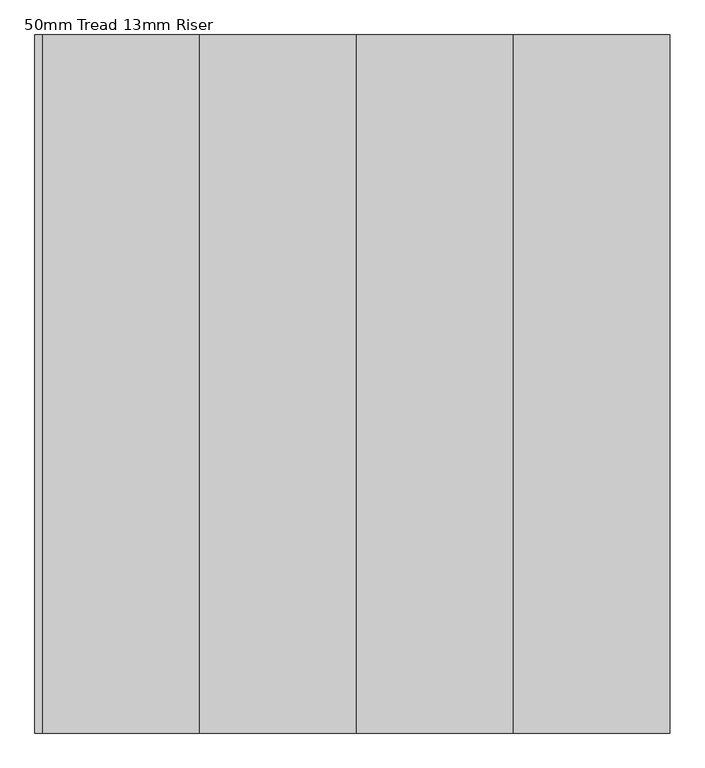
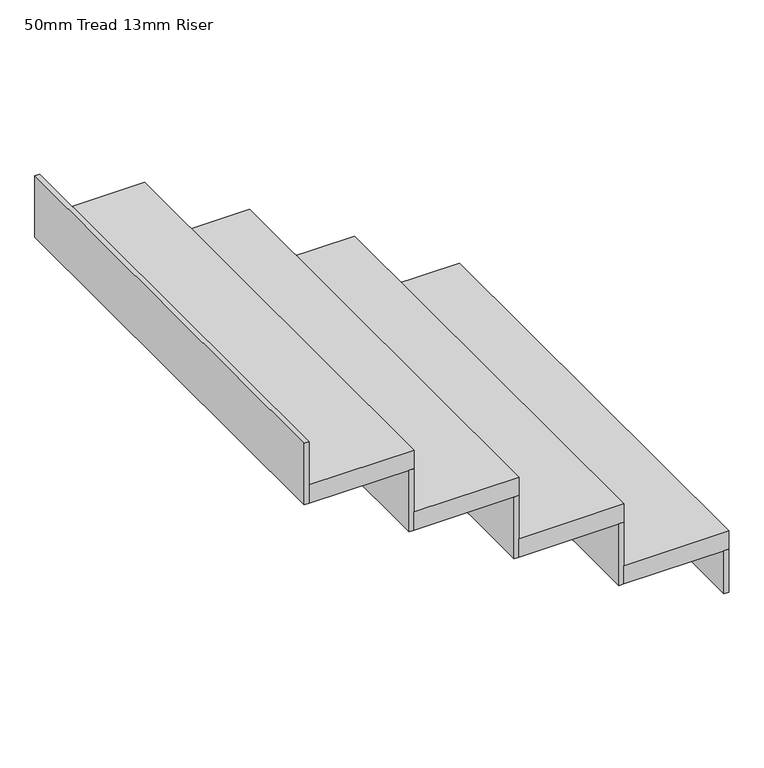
"""IFC4 building model written with IfcOpenShell, lengths in millimetres: stair flight geometry, 50mm Tread 13mm Riser."""

from ifc_helpers import new_model, si_unit, frame, origin, place, context, project, spatial, polyline, outline, extrude, source, transform, mapped, element, save


def stair_flight_50mm_tread_13mm_riser_676722f2(model_context):
    return source(origin(), model_context, "Body", "SweptSolid", [
        extrude(outline(polyline([(-73481.0913038, 13342.1710387), (-73468.5913038, 13342.1710387), (-73468.5913038, 12142.1710387), (-73481.0913038, 12142.1710387), (-73481.0913038, 13342.1710387)])), frame((0.0, 0.0, 42810.0), z_axis=(0.0, 0.0, 1.0), x_axis=(1.0, 0.0, 0.0)), (0.0, 0.0, 1.0), 117.5),
        extrude(outline(polyline([(-73738.5913038, 12142.1710387), (-73738.5913038, 13342.1710387), (-73468.5913038, 13342.1710387), (-73468.5913038, 12142.1710387), (-73738.5913038, 12142.1710387)])), frame((0.0, 0.0, 42927.5), z_axis=(0.0, 0.0, 1.0), x_axis=(1.0, 0.0, 0.0)), (0.0, 0.0, 1.0), 50.0),
        extrude(outline(polyline([(-73751.0913038, 13342.1710387), (-73738.5913038, 13342.1710387), (-73738.5913038, 12142.1710387), (-73751.0913038, 12142.1710387), (-73751.0913038, 13342.1710387)])), frame((0.0, 0.0, 42927.5), z_axis=(0.0, 0.0, 1.0), x_axis=(1.0, 0.0, 0.0)), (0.0, 0.0, 1.0), 167.5),
        extrude(outline(polyline([(-74008.5913038, 12142.1710387), (-74008.5913038, 13342.1710387), (-73738.5913038, 13342.1710387), (-73738.5913038, 12142.1710387), (-74008.5913038, 12142.1710387)])), frame((0.0, 0.0, 43095.0), z_axis=(0.0, 0.0, 1.0), x_axis=(1.0, 0.0, 0.0)), (0.0, 0.0, 1.0), 50.0),
        extrude(outline(polyline([(-74021.0913038, 13342.1710387), (-74008.5913038, 13342.1710387), (-74008.5913038, 12142.1710387), (-74021.0913038, 12142.1710387), (-74021.0913038, 13342.1710387)])), frame((0.0, 0.0, 43095.0), z_axis=(0.0, 0.0, 1.0), x_axis=(1.0, 0.0, 0.0)), (0.0, 0.0, 1.0), 167.5),
        extrude(outline(polyline([(-74278.5913038, 12142.1710387), (-74278.5913038, 13342.1710387), (-74008.5913038, 13342.1710387), (-74008.5913038, 12142.1710387), (-74278.5913038, 12142.1710387)])), frame((0.0, 0.0, 43262.5), z_axis=(0.0, 0.0, 1.0), x_axis=(1.0, 0.0, 0.0)), (0.0, 0.0, 1.0), 50.0),
        extrude(outline(polyline([(-74291.0913038, 13342.1710387), (-74278.5913038, 13342.1710387), (-74278.5913038, 12142.1710387), (-74291.0913038, 12142.1710387), (-74291.0913038, 13342.1710387)])), frame((0.0, 0.0, 43262.5), z_axis=(0.0, 0.0, 1.0), x_axis=(1.0, 0.0, 0.0)), (0.0, 0.0, 1.0), 167.5),
        extrude(outline(polyline([(-74561.0913038, 13342.1710387), (-74548.5913038, 13342.1710387), (-74548.5913038, 12142.1710387), (-74561.0913038, 12142.1710387), (-74561.0913038, 13342.1710387)])), frame((0.0, 0.0, 43430.0), z_axis=(0.0, 0.0, 1.0), x_axis=(1.0, 0.0, 0.0)), (0.0, 0.0, 1.0), 167.5),
        extrude(outline(polyline([(-74548.5913038, 12142.1710387), (-74548.5913038, 13342.1710387), (-74278.5913038, 13342.1710387), (-74278.5913038, 12142.1710387), (-74548.5913038, 12142.1710387)])), frame((0.0, 0.0, 43430.0), z_axis=(0.0, 0.0, 1.0), x_axis=(1.0, 0.0, 0.0)), (0.0, 0.0, 1.0), 50.0),
    ])


if __name__ == "__main__":
    model = new_model("IFC4")
    model_context = context("Model", 3, world=origin())
    ifc_project = project(units=[si_unit("LENGTHUNIT", "METRE", prefix="MILLI")], contexts=[model_context])
    site = spatial("IfcSite", under=ifc_project)
    building = spatial("IfcBuilding", under=site)
    placement = place(None, origin())
    stair_flight_50mm_tread_13mm_riser_shape = stair_flight_50mm_tread_13mm_riser_676722f2(model_context)
    element("IfcStairFlight", 1, ObjectType="50mm Tread 13mm Riser", at=placement, inside=building, context=model_context, shape_type="MappedRepresentation", body=[
        mapped(stair_flight_50mm_tread_13mm_riser_shape, transform((0.0, 0.0, 0.0), x_axis=(1.0, 0.0, 0.0), y_axis=(0.0, 1.0, 0.0), z_axis=(0.0, 0.0, 1.0))),
    ])
    save(model, "model.ifc")
